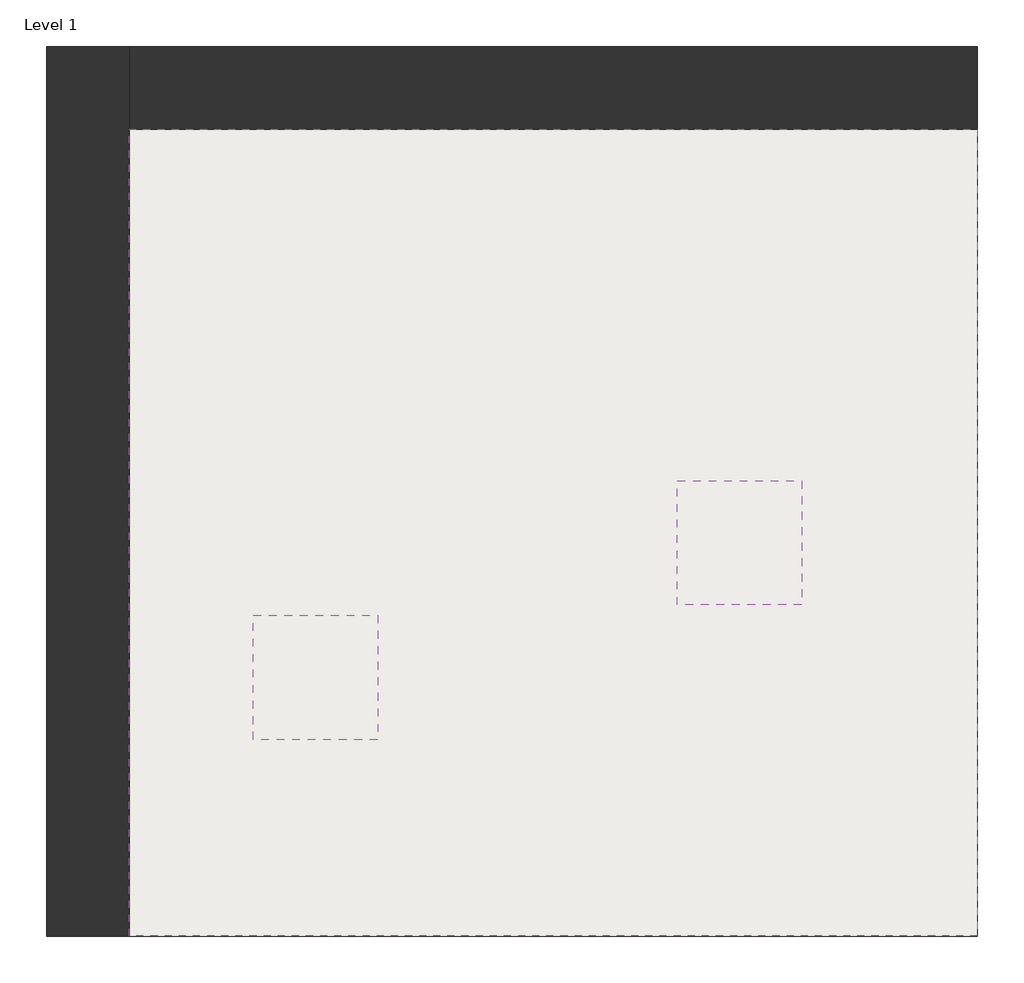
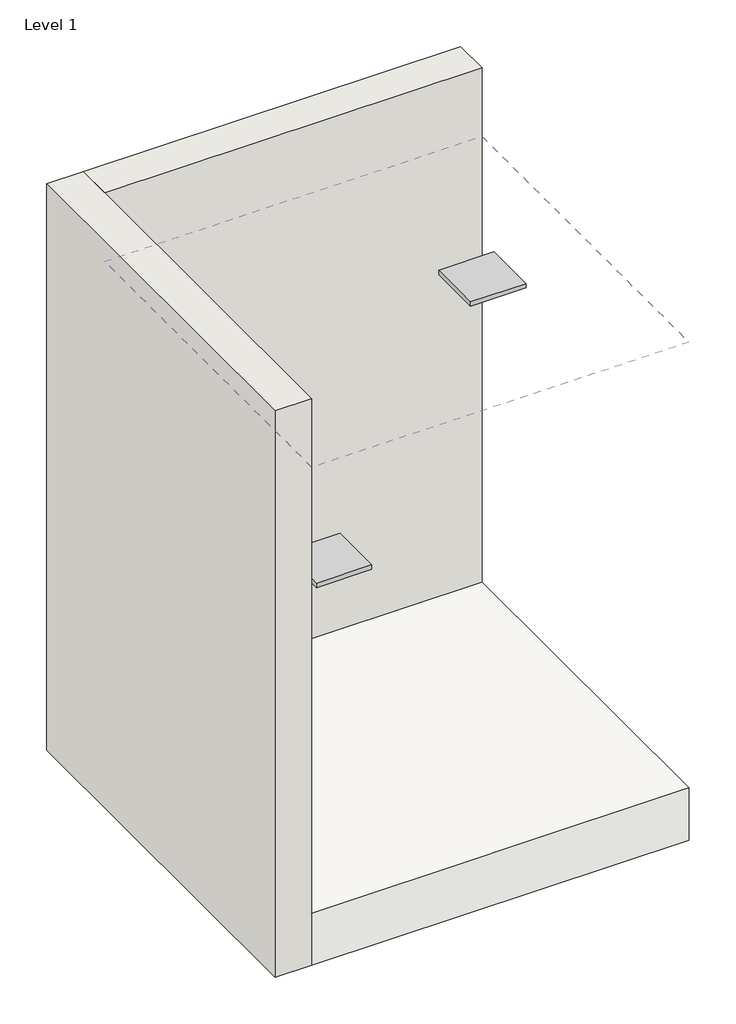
# One storey: 2 light fixtures, 2 walls, 1 covering, 1 slab.
"""IFC4 building model written with IfcOpenShell, lengths in millimetres."""

from ifc_helpers import new_model, si_unit, frame, origin, place, context, project, spatial, polyline, outline, extrude, faceted_brep, transform, mapped, element, save
from components import light_fixture_037b58a4

model = new_model("IFC4")

# Units and contexts
model_context = context("Model", 3, world=origin())
ifc_project = project(units=[si_unit("LENGTHUNIT", "METRE", prefix="MILLI")], contexts=[model_context])

# Site, building, storey
site = spatial("IfcSite", under=ifc_project)
building = spatial("IfcBuilding", under=site)
storey = spatial("IfcBuildingStorey", under=building, Name="Level 1", Elevation=0.0)

# Covering
placement = place(None, origin())
element("IfcCovering", 1, ObjectType="Ceiling 2", at=placement, inside=storey, context=model_context, shape_type="SweptSolid", body=[
    extrude(outline(polyline([(4291.0676417, 3741.7404022), (4291.0676417, 1760.5404022), (2208.2676417, 1760.5404022), (2208.2676417, 3741.7404022), (4291.0676417, 3741.7404022)])), frame((0.0, 0.0, 2600.0), z_axis=(0.0, 0.0, 1.0), x_axis=(1.0, 0.0, 0.0)), (0.0, 0.0, 1.0), 25.4),
])

# Light fixtures
light_fixture_shape = light_fixture_037b58a4(model_context)
element("IfcLightFixture", 2, ObjectType="LCMPD12Q_SURFACE MOUNT BASIC : LCMPD12QW-T30", at=placement, inside=storey, context=model_context, shape_type="MappedRepresentation", body=[
    mapped(light_fixture_shape, transform((3706.8676417, 2759.5396904, 2600.0), x_axis=(1.0, 0.0, 0.0), y_axis=(0.0, 1.0, 0.0), z_axis=(0.0, 0.0, 1.0))),
])
element("IfcLightFixture", 3, ObjectType="LCMPD12Q_SURFACE MOUNT BASIC : LCMPD12QW-T30", at=placement, inside=storey, context=model_context, shape_type="MappedRepresentation", body=[
    mapped(light_fixture_shape, transform((2665.4676417, 2429.3396904, 1524.0), x_axis=(1.0, 0.0, 0.0), y_axis=(0.0, 1.0, 0.0), z_axis=(0.0, 0.0, 1.0))),
])

# Slab
element("IfcSlab", 4, ObjectType="Floor 1", at=placement, inside=storey, context=model_context, shape_type="SweptSolid", body=[
    extrude(outline(polyline([(4291.0676417, 3741.7404022), (4291.0676417, 1760.5404022), (2208.2676417, 1760.5404022), (2208.2676417, 3741.7404022), (4291.0676417, 3741.7404022)])), frame((0.0, 0.0, -304.8), z_axis=(0.0, 0.0, 1.0), x_axis=(1.0, 0.0, 0.0)), (0.0, 0.0, 1.0), 304.8),
])

# Walls
element("IfcWall", 5, ObjectType="Wall 1", at=placement, inside=storey, context=model_context, shape_type="Brep", body=[
    faceted_brep([(2005.0676417, 3944.9404022, -304.8), (2005.0676417, 1760.5404022, -304.8), (2005.0676417, 1760.5404022, 3000.0), (2005.0676417, 3944.9404022, 3000.0), (2208.2676417, 3944.9404022, -304.8), (2208.2676417, 3944.9404022, 3000.0), (2208.2676417, 3741.7404022, 3000.0), (2208.2676417, 1760.5404022, 3000.0), (2208.2676417, 1760.5404022, -304.8), (2208.2676417, 3741.7404022, -304.8)], [[[0, 1, 2, 3]], [[4, 5, 6, 7, 8, 9]], [[1, 0, 4, 9, 8]], [[2, 1, 8, 7]], [[3, 2, 7, 6, 5]], [[0, 3, 5, 4]]]),
])
element("IfcWall", 6, ObjectType="Wall 1", at=placement, inside=storey, context=model_context, shape_type="SweptSolid", body=[
    extrude(outline(polyline([(4291.0676417, 3741.7404022), (2208.2676417, 3741.7404022), (2208.2676417, 3944.9404022), (4291.0676417, 3944.9404022), (4291.0676417, 3741.7404022)])), frame((0.0, 0.0, -304.8), z_axis=(0.0, 0.0, 1.0), x_axis=(1.0, 0.0, 0.0)), (0.0, 0.0, 1.0), 3304.8),
])

save(model, "model.ifc")
